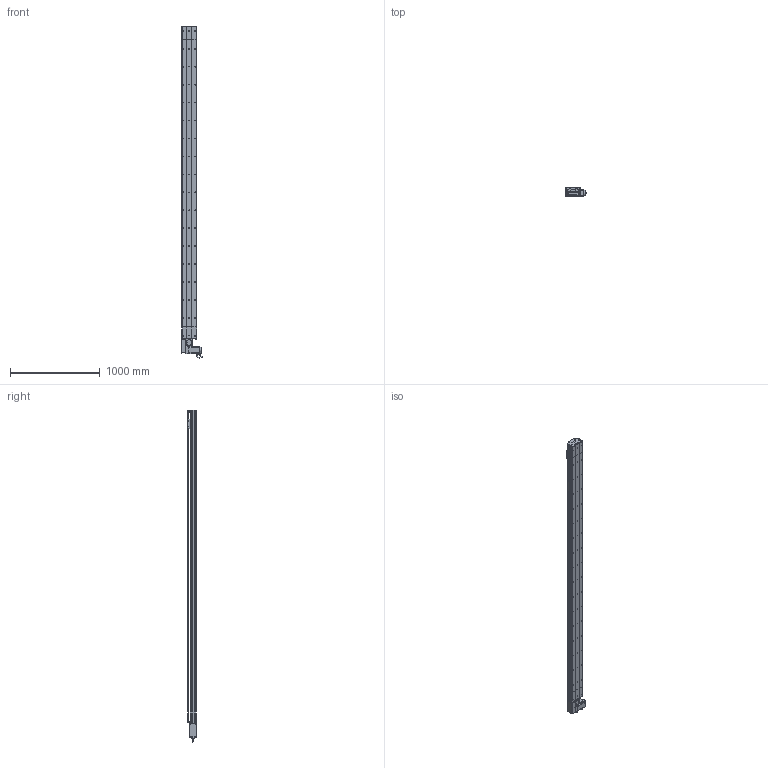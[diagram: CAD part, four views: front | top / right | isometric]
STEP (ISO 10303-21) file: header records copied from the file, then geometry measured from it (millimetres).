
FILE_DESCRIPTION (( 'STEP AP214' ), '1' );
FILE_NAME ('D17 TBN RH S3200.STEP', '2010-06-30T13:38:01', ( 'Conseil Régional Haute-Normandie' ), ( 'Conseil Régional Haute-Normandie' ), 'SwSTEP 2.0', 'SolidWorks 2010', '' );
FILE_SCHEMA (( 'AUTOMOTIVE_DESIGN' ));
Length unit declared in the file: millimetre
Products named in the file (40): Plaque racord D17_Default; guide D17; Chariot D17 TBN; chariot D17 TBN; vis M5 L25_Default; Couroie tail D17B_Default; poulie tail_Default; plaque de  bout tail D17B_Default; vis M5 L12_Default; vis M5 L8 90°_Default; couvercle D17B_Default; Rail D17B; tete d''axe poulie D17B; corpl tail D17B_Default; Tail D17B_Default; Renvoi RH_Default; cache arbre D17_Default; Vis M5 L16-2_Default; vis M5 L16_Default; Couroie+ rail D17 Course 3200 ; course 3200 D17B_Default; D17 TBN RH S3200; Head RH D17B_Default; couvercle D17B course L3200_Default; corp D17B 3200_Default; plaque de  bout head D17B RH_Default; couvercle D17B head_Default; corpl head D17 _Default; vis M5 L5_Default; cache D17_Default; Arbre+rail head D17B; Moteur motionking 90BLDC125A-640; couroie head D17_Default; poulie head_Default; codeur 90BLDC125-640; corps 90BLDC125A-640; avant 90BLDC125A-640; vis M5 L70_Default; Conecteur_Default; Conecteur2_Default
Assembly tree (66 placements, depth 4):
  D17 TBN RH S3200
    chariot D17 TBN
      guide D17  x2
      Chariot D17 TBN
    Head RH D17B_Default
      vis M5 L12_Default  x8
      Vis M5 L16-2_Default  x4
      couroie head D17_Default
      cache D17_Default  x2
      Plaque racord D17_Default
      vis M5 L16_Default  x2
      vis M5 L5_Default  x4
      Moteur motionking 90BLDC125A-640
        avant 90BLDC125A-640
        Conecteur2_Default
        Conecteur_Default
        codeur 90BLDC125-640
        corps 90BLDC125A-640
      vis M5 L25_Default  x2
      plaque de  bout head D17B RH_Default
      vis M5 L70_Default  x4
      corpl head D17 _Default
      couvercle D17B head_Default
      poulie head_Default
      Arbre+rail head D17B
      Renvoi RH_Default
      cache arbre D17_Default
    Tail D17B_Default
      vis M5 L12_Default  x4
      vis M5 L25_Default  x2
      couvercle D17B_Default
      vis M5 L8 90°_Default  x2
      poulie tail_Default
      plaque de  bout tail D17B_Default
      corpl tail D17B_Default
      Couroie tail D17B_Default
      Rail D17B
      tete d''axe poulie D17B
    course 3200 D17B_Default
      Couroie+ rail D17 Course 3200 
      couvercle D17B course L3200_Default
      corp D17B 3200_Default
Bounding box: 245.2 x 105.65 x 3700.95 mm (x, y, z)
Volume: 20353442.6 mm3; surface area: 5960495.2 mm2
Topology: 89 solids, 89 shells, 2663 faces, 6869 edges, 4426 vertices
Faces by surface type: plane 1533, cylinder 833, bspline 136, cone 80, torus 77, sphere 4
Entity records: 86915 total; most frequent: CARTESIAN_POINT 25715, ORIENTED_EDGE 10910, DIRECTION 10292, EDGE_CURVE 5455, VERTEX_POINT 3570, LINE 3538, VECTOR 3538, AXIS2_PLACEMENT_3D 3377
